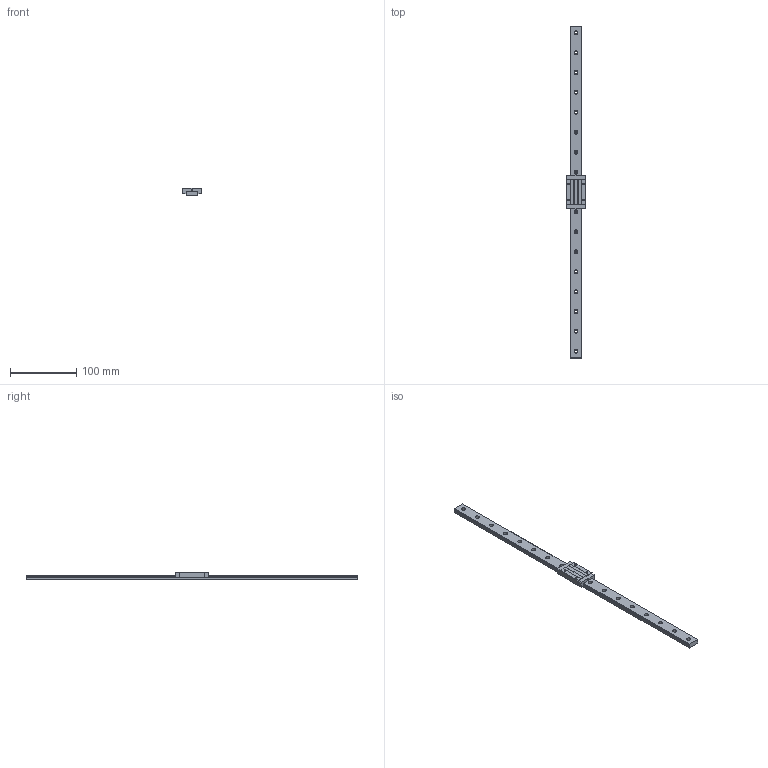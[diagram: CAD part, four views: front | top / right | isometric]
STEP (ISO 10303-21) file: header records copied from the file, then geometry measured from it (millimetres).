
FILE_DESCRIPTION(/* description */ (''),/* implementation_level */ '2;1');
FILE_NAME(/* name */ 'TM09WL.stp',/* time_stamp */ '2017-10-31T11:06:09+08:00',/* author */ (''),/* organization */ (''),/* preprocessor_version */ 'ST-DEVELOPER v11',/* originating_system */ 'SIEMENS UGS NX 6.0',/* authorisation */ '');
FILE_SCHEMA (('AUTOMOTIVE_DESIGN { 1 0 10303 214 1 1 1 1 }'));
Length unit declared in the file: millimetre
Products named in the file (1): TM09WL
Bounding box: 30 x 500 x 12 mm (x, y, z)
Volume: 71082.4 mm3; surface area: 33353 mm2
Topology: 2 solids, 2 shells, 157 faces, 415 edges, 281 vertices
Faces by surface type: plane 81, cylinder 72, cone 4
Full cylindrical faces by diameter (mm): 1.3 x2, 2.5 x4, 3.5 x17, 6 x17
Entity records: 4585 total; most frequent: DIRECTION 806, CARTESIAN_POINT 764, ORIENTED_EDGE 692, EDGE_CURVE 346, AXIS2_PLACEMENT_3D 302, VERTEX_POINT 260, EDGE_LOOP 254, LINE 202
